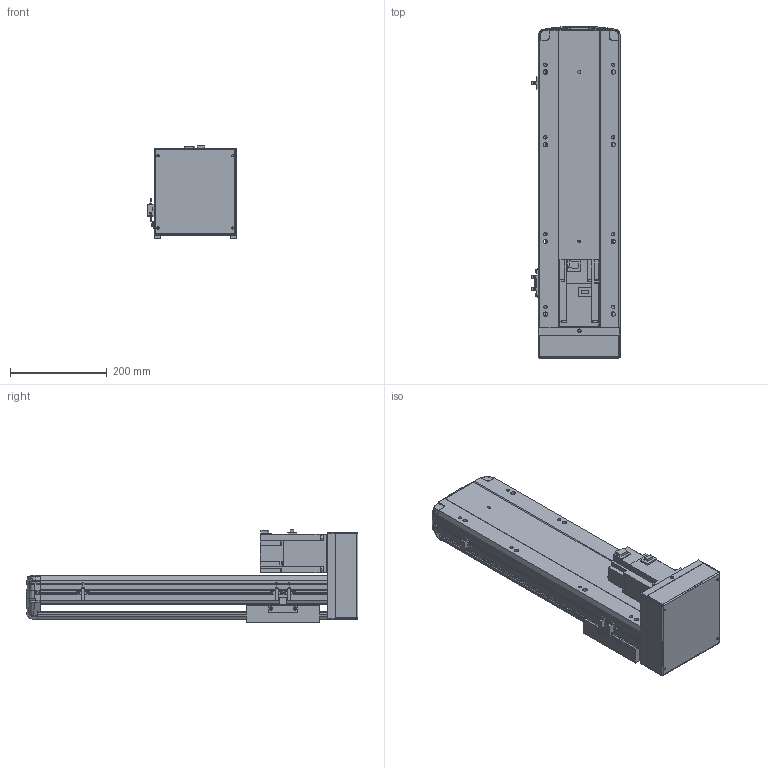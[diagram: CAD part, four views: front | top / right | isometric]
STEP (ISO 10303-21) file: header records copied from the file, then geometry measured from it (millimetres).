
FILE_DESCRIPTION (( 'STEP AP203' ), '1' );
FILE_NAME ('8.STEP', '2020-11-21T00:48:44', ( '' ), ( '' ), 'SwSTEP 2.0', 'SolidWorks 2016', '' );
FILE_SCHEMA (( 'CONFIG_CONTROL_DESIGN' ));
Length unit declared in the file: millimetre
Products named in the file (7): BTH17-BM-04-T75; BTH17-BM-HZ-T75_賑釱; BTH17-BL-BM-BR-菁釱; BTH17-BM-T75; BTH17-BM-02-T75; BTH17-BM-01-T75; 8
Assembly tree (8 placements, depth 2):
  8
    BTH17-BL-BM-BR-菁釱
    BTH17-BM-01-T75
    BTH17-BM-02-T75
    BTH17-BM-04-T75  x3
    BTH17-BM-HZ-T75_賑釱
    BTH17-BM-T75
Bounding box: 183.7 x 685.53 x 190.8 mm (x, y, z)
Volume: 5593324.4 mm3; surface area: 1016236.3 mm2
Topology: 14 solids, 14 shells, 1563 faces, 4224 edges, 2706 vertices
Faces by surface type: plane 843, cylinder 411, bspline 203, cone 83, torus 23
Entity records: 54057 total; most frequent: CARTESIAN_POINT 20763, ORIENTED_EDGE 7270, DIRECTION 6008, EDGE_CURVE 3635, VERTEX_POINT 2346, VECTOR 2090, LINE 2090, AXIS2_PLACEMENT_3D 1959
